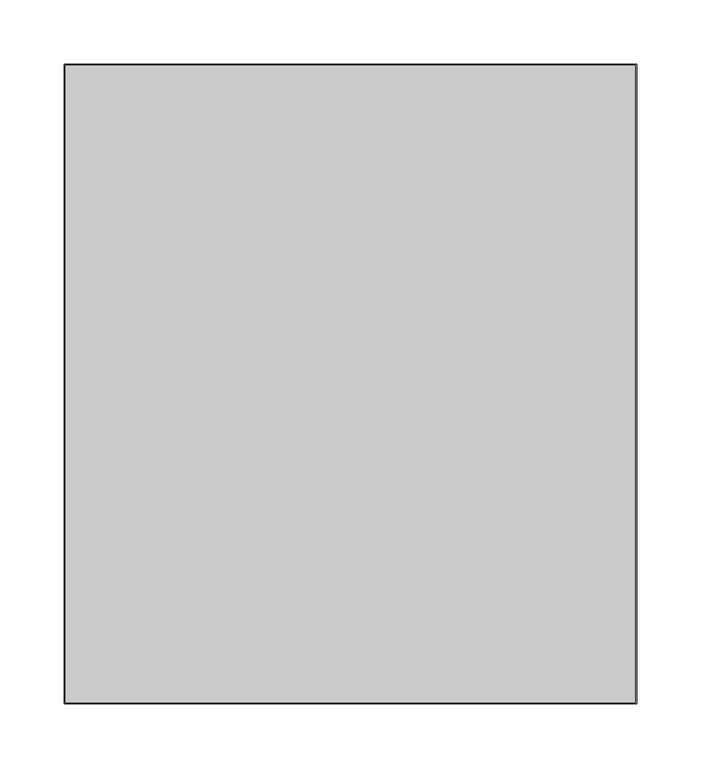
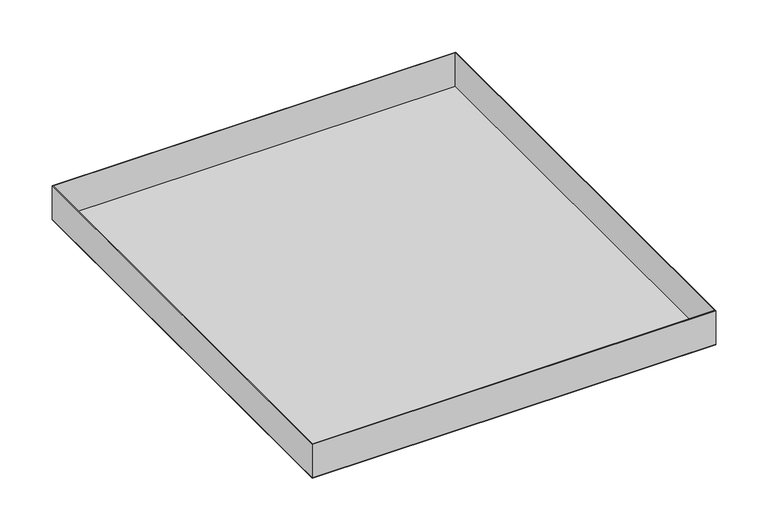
"""IFC4 building model written with IfcOpenShell, lengths in millimetres: proxy geometry, durlum_S5.7KS-BR_panel : durlum_S5.7KS-BR_panel_wall_corner."""

from ifc_helpers import new_model, si_unit, frame, origin, origin_with_axes, place, context, project, spatial, polyline, outline, extrude, source, transform, mapped, element, save


def generic_models_99a2cd64(model_context):
    return source(origin(), model_context, "Body", "SweptSolid", [
        extrude(outline(polyline([(223.5, 249.75), (223.5, -249.75), (-223.5, -249.75), (-223.5, 249.75), (223.5, 249.75)]), holes=[polyline([(222.5, 248.75), (-222.5, 248.75), (-222.5, -248.75), (222.5, -248.75), (222.5, 248.75)])]), frame((0.0, 0.0, 1.0), z_axis=(0.0, 0.0, 1.0), x_axis=(1.0, 0.0, 0.0)), (0.0, 0.0, 1.0), 39.0),
        extrude(outline(polyline([(223.5, 249.75), (223.5, -249.75), (-223.5, -249.75), (-223.5, 249.75), (223.5, 249.75)])), origin_with_axes(), (0.0, 0.0, 1.0), 1.0),
    ])


if __name__ == "__main__":
    model = new_model("IFC4")
    model_context = context("Model", 3, world=origin())
    ifc_project = project(units=[si_unit("LENGTHUNIT", "METRE", prefix="MILLI")], contexts=[model_context])
    site = spatial("IfcSite", under=ifc_project)
    building = spatial("IfcBuilding", under=site)
    placement = place(None, origin())
    generic_models_shape = generic_models_99a2cd64(model_context)
    element("IfcBuildingElementProxy", 1, Name="durlum_S5.7KS-BR_panel : durlum_S5.7KS-BR_panel_wall_corner", ObjectType="durlum_S5.7KS-BR_panel : durlum_S5.7KS-BR_panel_wall_corner", at=placement, inside=building, context=model_context, shape_type="MappedRepresentation", body=[
        mapped(generic_models_shape, transform((0.0, 0.0, 0.0), x_axis=(1.0, 0.0, 0.0), y_axis=(0.0, 1.0, 0.0), z_axis=(0.0, 0.0, 1.0))),
    ])
    save(model, "model.ifc")
